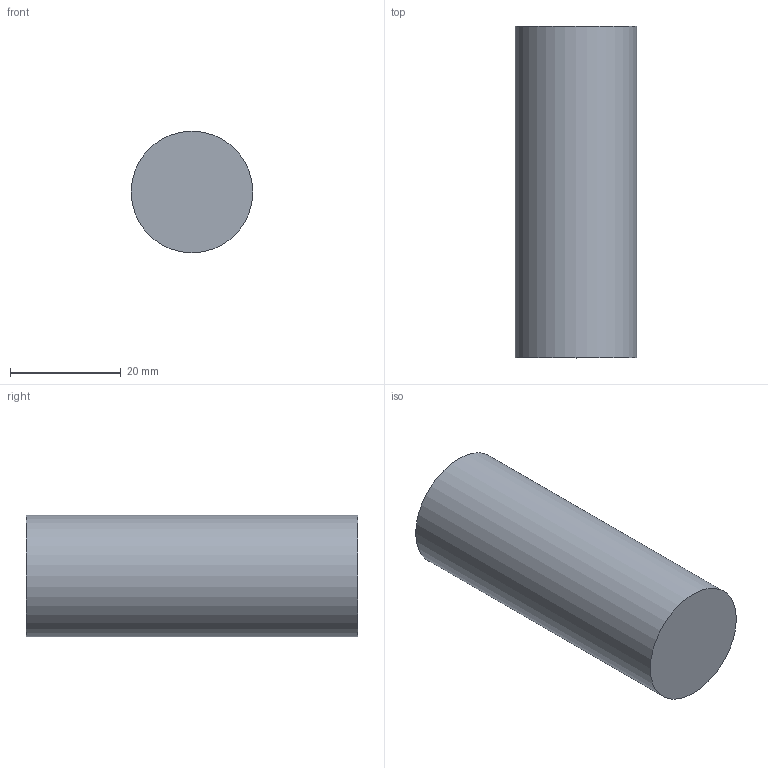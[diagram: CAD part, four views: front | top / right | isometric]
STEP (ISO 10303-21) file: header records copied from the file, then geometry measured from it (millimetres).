
FILE_DESCRIPTION(('Open CASCADE Model'),'2;1');
FILE_NAME('Open CASCADE Shape Model','2026-10-04T02:31:41',('Author'),( 'Open CASCADE'),'Open CASCADE STEP processor 8.0','Open CASCADE 8.0' ,'Unknown');
FILE_SCHEMA(('AUTOMOTIVE_DESIGN { 1 0 10303 214 1 1 1 1 }'));
Length unit declared in the file: millimetre
Products named in the file (1): Open CASCADE STEP translator 8.0 234
Bounding box: 22 x 60 x 22 mm (x, y, z)
Volume: 22808 mm3; surface area: 4907.2 mm2
Topology: 1 solids, 1 shells, 3 faces, 3 edges, 2 vertices
Faces by surface type: plane 2, cylinder 1
Full cylindrical faces by diameter (mm): 22 x1
Entity records: 108 total; most frequent: DIRECTION 19, CARTESIAN_POINT 15, AXIS2_PLACEMENT_3D 6, ORIENTED_EDGE 6, PCURVE 6, DEFINITIONAL_REPRESENTATION 6, LINE 5, VECTOR 5
